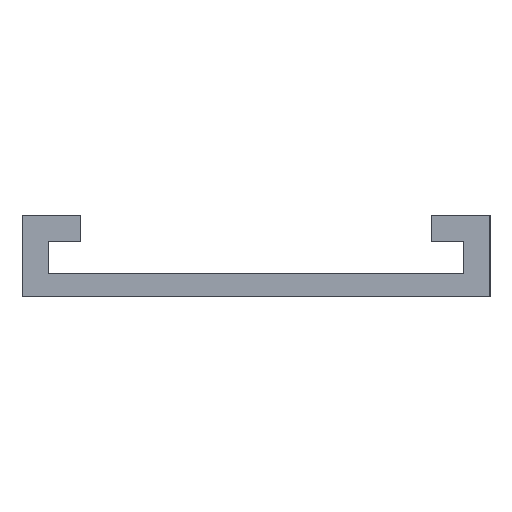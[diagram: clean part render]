
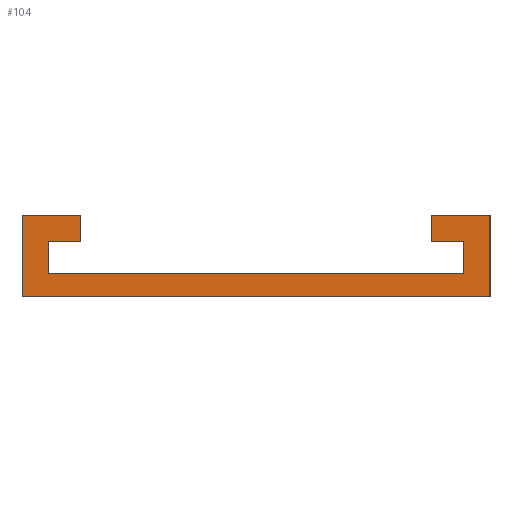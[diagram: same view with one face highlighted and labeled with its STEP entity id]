
A CAD part, left-side view. The second image highlights one B-rep face of the part: STEP entity #104.
In plain terms, the highlighted planar face has unit normal (-1, 0, 0).
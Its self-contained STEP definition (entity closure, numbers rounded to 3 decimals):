
#6 = CARTESIAN_POINT ( 'NONE',  ( 0., -30., 9.5 ) ) ;
#8 = VECTOR ( 'NONE', #223, 1000. ) ;
#13 = AXIS2_PLACEMENT_3D ( 'NONE', #455, #169, #341 ) ;
#18 = EDGE_CURVE ( 'NONE', #389, #48, #446, .T. ) ;
#20 = VECTOR ( 'NONE', #285, 1000. ) ;
#32 = VECTOR ( 'NONE', #145, 1000. ) ;
#33 = ORIENTED_EDGE ( 'NONE', *, *, #163, .F. ) ;
#40 = CARTESIAN_POINT ( 'NONE',  ( 0., -30., 14. ) ) ;
#48 = VERTEX_POINT ( 'NONE', #94 ) ;
#50 = LINE ( 'NONE', #272, #217 ) ;
#52 = ORIENTED_EDGE ( 'NONE', *, *, #387, .F. ) ;
#57 = VECTOR ( 'NONE', #411, 1000. ) ;
#62 = DIRECTION ( 'NONE',  ( 0., 0., -1. ) ) ;
#67 = VERTEX_POINT ( 'NONE', #137 ) ;
#68 = CARTESIAN_POINT ( 'NONE',  ( 0., 30., 14. ) ) ;
#74 = DIRECTION ( 'NONE',  ( 0., 0., -1. ) ) ;
#78 = DIRECTION ( 'NONE',  ( 0., 0., -1. ) ) ;
#92 = CARTESIAN_POINT ( 'NONE',  ( 0., 30., 9.5 ) ) ;
#94 = CARTESIAN_POINT ( 'NONE',  ( 0., 35.5, 9.5 ) ) ;
#97 = EDGE_CURVE ( 'NONE', #67, #211, #327, .T. ) ;
#98 = ORIENTED_EDGE ( 'NONE', *, *, #97, .F. ) ;
#104 = ADVANCED_FACE ( 'NONE', ( #129 ), #199, .F. ) ;
#105 = CARTESIAN_POINT ( 'NONE',  ( 0., -35.5, 9.5 ) ) ;
#127 = VECTOR ( 'NONE', #426, 1000. ) ;
#129 = FACE_OUTER_BOUND ( 'NONE', #328, .T. ) ;
#137 = CARTESIAN_POINT ( 'NONE',  ( 0., -35.5, 9.5 ) ) ;
#145 = DIRECTION ( 'NONE',  ( 0., 0., 1. ) ) ;
#150 = CARTESIAN_POINT ( 'NONE',  ( 0., -35.5, 4. ) ) ;
#156 = ORIENTED_EDGE ( 'NONE', *, *, #214, .F. ) ;
#163 = EDGE_CURVE ( 'NONE', #197, #447, #50, .T. ) ;
#169 = DIRECTION ( 'NONE',  ( 1., 0., 0. ) ) ;
#176 = DIRECTION ( 'NONE',  ( 0., -1., 0. ) ) ;
#177 = ORIENTED_EDGE ( 'NONE', *, *, #383, .F. ) ;
#189 = ORIENTED_EDGE ( 'NONE', *, *, #299, .F. ) ;
#191 = EDGE_CURVE ( 'NONE', #343, #259, #235, .T. ) ;
#197 = VERTEX_POINT ( 'NONE', #246 ) ;
#199 = PLANE ( 'NONE',  #13 ) ;
#200 = LINE ( 'NONE', #398, #8 ) ;
#207 = VECTOR ( 'NONE', #74, 1000. ) ;
#211 = VERTEX_POINT ( 'NONE', #6 ) ;
#214 = EDGE_CURVE ( 'NONE', #413, #197, #417, .T. ) ;
#217 = VECTOR ( 'NONE', #62, 1000. ) ;
#218 = VECTOR ( 'NONE', #78, 1000. ) ;
#219 = CARTESIAN_POINT ( 'NONE',  ( 0., -40., 0. ) ) ;
#223 = DIRECTION ( 'NONE',  ( 0., -1., 0. ) ) ;
#228 = EDGE_CURVE ( 'NONE', #259, #233, #268, .T. ) ;
#233 = VERTEX_POINT ( 'NONE', #68 ) ;
#235 = LINE ( 'NONE', #463, #318 ) ;
#246 = CARTESIAN_POINT ( 'NONE',  ( 0., -40., 14. ) ) ;
#259 = VERTEX_POINT ( 'NONE', #275 ) ;
#264 = EDGE_CURVE ( 'NONE', #48, #332, #303, .T. ) ;
#267 = ORIENTED_EDGE ( 'NONE', *, *, #191, .F. ) ;
#268 = LINE ( 'NONE', #311, #334 ) ;
#272 = CARTESIAN_POINT ( 'NONE',  ( 0., -40., 14. ) ) ;
#275 = CARTESIAN_POINT ( 'NONE',  ( 0., 40., 14. ) ) ;
#278 = EDGE_CURVE ( 'NONE', #393, #67, #403, .T. ) ;
#279 = CARTESIAN_POINT ( 'NONE',  ( 0., 30., 14. ) ) ;
#280 = ORIENTED_EDGE ( 'NONE', *, *, #449, .F. ) ;
#285 = DIRECTION ( 'NONE',  ( 0., 0., 1. ) ) ;
#287 = CARTESIAN_POINT ( 'NONE',  ( 0., -30., 9.5 ) ) ;
#290 = CARTESIAN_POINT ( 'NONE',  ( 0., 35.5, 4. ) ) ;
#293 = ORIENTED_EDGE ( 'NONE', *, *, #264, .F. ) ;
#299 = EDGE_CURVE ( 'NONE', #332, #393, #200, .T. ) ;
#303 = LINE ( 'NONE', #320, #207 ) ;
#306 = VECTOR ( 'NONE', #461, 1000. ) ;
#310 = VECTOR ( 'NONE', #176, 1000. ) ;
#311 = CARTESIAN_POINT ( 'NONE',  ( 0., 40., 14. ) ) ;
#313 = ORIENTED_EDGE ( 'NONE', *, *, #18, .F. ) ;
#314 = DIRECTION ( 'NONE',  ( 0., 0., 1. ) ) ;
#316 = CARTESIAN_POINT ( 'NONE',  ( 0., -40., 0. ) ) ;
#318 = VECTOR ( 'NONE', #314, 1000. ) ;
#320 = CARTESIAN_POINT ( 'NONE',  ( 0., 35.5, 9.5 ) ) ;
#327 = LINE ( 'NONE', #105, #306 ) ;
#328 = EDGE_LOOP ( 'NONE', ( #267, #177, #33, #156, #280, #98, #337, #189, #293, #313, #52, #340 ) ) ;
#332 = VERTEX_POINT ( 'NONE', #290 ) ;
#334 = VECTOR ( 'NONE', #466, 1000. ) ;
#335 = LINE ( 'NONE', #279, #218 ) ;
#337 = ORIENTED_EDGE ( 'NONE', *, *, #278, .F. ) ;
#340 = ORIENTED_EDGE ( 'NONE', *, *, #228, .F. ) ;
#341 = DIRECTION ( 'NONE',  ( 0., 0., -1. ) ) ;
#343 = VERTEX_POINT ( 'NONE', #360 ) ;
#350 = LINE ( 'NONE', #287, #32 ) ;
#351 = CARTESIAN_POINT ( 'NONE',  ( 0., -35.5, 4. ) ) ;
#360 = CARTESIAN_POINT ( 'NONE',  ( 0., 40., 0. ) ) ;
#383 = EDGE_CURVE ( 'NONE', #447, #343, #458, .T. ) ;
#387 = EDGE_CURVE ( 'NONE', #233, #389, #335, .T. ) ;
#389 = VERTEX_POINT ( 'NONE', #392 ) ;
#392 = CARTESIAN_POINT ( 'NONE',  ( 0., 30., 9.5 ) ) ;
#393 = VERTEX_POINT ( 'NONE', #150 ) ;
#398 = CARTESIAN_POINT ( 'NONE',  ( 0., 35.5, 4. ) ) ;
#400 = CARTESIAN_POINT ( 'NONE',  ( 0., -30., 14. ) ) ;
#403 = LINE ( 'NONE', #351, #20 ) ;
#411 = DIRECTION ( 'NONE',  ( 0., 1., 0. ) ) ;
#413 = VERTEX_POINT ( 'NONE', #400 ) ;
#417 = LINE ( 'NONE', #40, #310 ) ;
#426 = DIRECTION ( 'NONE',  ( 0., 1., 0. ) ) ;
#446 = LINE ( 'NONE', #92, #57 ) ;
#447 = VERTEX_POINT ( 'NONE', #316 ) ;
#449 = EDGE_CURVE ( 'NONE', #211, #413, #350, .T. ) ;
#455 = CARTESIAN_POINT ( 'NONE',  ( 0., 0., 0. ) ) ;
#458 = LINE ( 'NONE', #219, #127 ) ;
#461 = DIRECTION ( 'NONE',  ( 0., 1., 0. ) ) ;
#463 = CARTESIAN_POINT ( 'NONE',  ( 0., 40., 0. ) ) ;
#466 = DIRECTION ( 'NONE',  ( 0., -1., 0. ) ) ;
